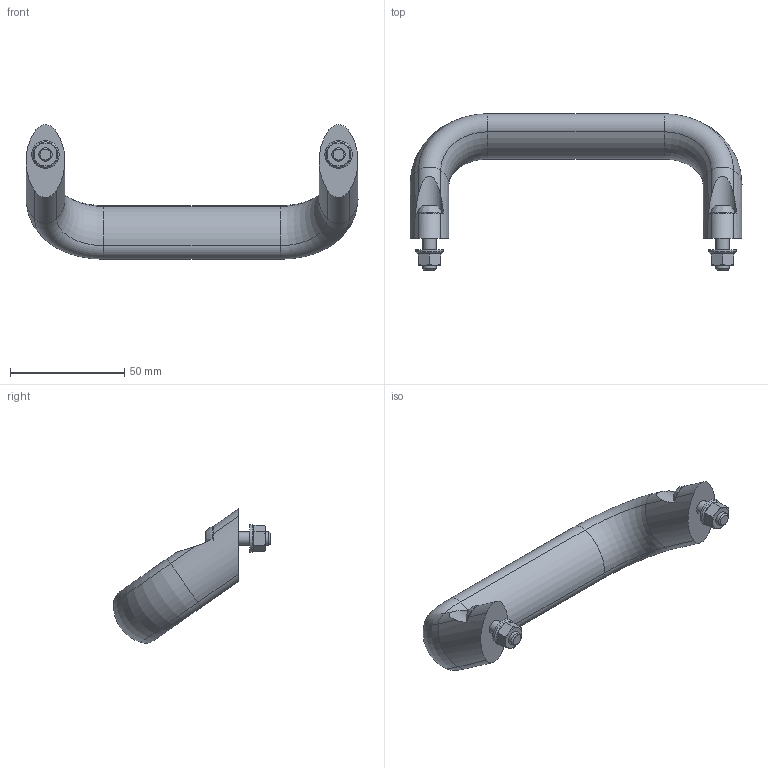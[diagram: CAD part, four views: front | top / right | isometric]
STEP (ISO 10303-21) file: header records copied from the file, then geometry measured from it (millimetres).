
FILE_DESCRIPTION( ( 'STEP AP203' ), '1' );
FILE_NAME( 'C:/Temp/Ganter_Step_05_03_2020/data/1_2/gn_565_2/Inclined cabinet „U“ handle GN 565.2-26-128-B-EL (1).stp', '2020-03-05T10:09:33', ( 'License CC BY-ND 4.0' ), ( 'CADENAS' ), ' ', 'PARTsolutions', ' ' );
FILE_SCHEMA( ( 'CONFIG_CONTROL_DESIGN' ) );
Length unit declared in the file: millimetre
Products named in the file (3): Inclined cabinet U handle GN 565.2-26-128-B-EL (1); _Schraeger Buegelgriff GN 565.2-26-128-B-EL-1; _Schraeger Buegelgriff GN 565.2-26-128-B-EL-2
Assembly tree (3 placements, depth 2):
  Inclined cabinet U handle GN 565.2-26-128-B-EL (1)
    _Schraeger Buegelgriff GN 565.2-26-128-B-EL-1
    _Schraeger Buegelgriff GN 565.2-26-128-B-EL-2  x2
Bounding box: 145 x 68.45 x 58.74 mm (x, y, z)
Volume: 73786.3 mm3; surface area: 18125.4 mm2
Topology: 3 solids, 3 shells, 120 faces, 254 edges, 150 vertices
Faces by surface type: plane 50, cone 32, cylinder 28, torus 8, bspline 2
Full cylindrical faces by diameter (mm): 4.917 x2, 6 x2, 6.4 x2, 6.5 x2, 10.5 x2, 12 x2
Entity records: 2662 total; most frequent: CARTESIAN_POINT 630, DIRECTION 428, ORIENTED_EDGE 358, AXIS2_PLACEMENT_3D 185, EDGE_CURVE 179, EDGE_LOOP 118, VERTEX_POINT 115, FACE_OUTER_BOUND 103
